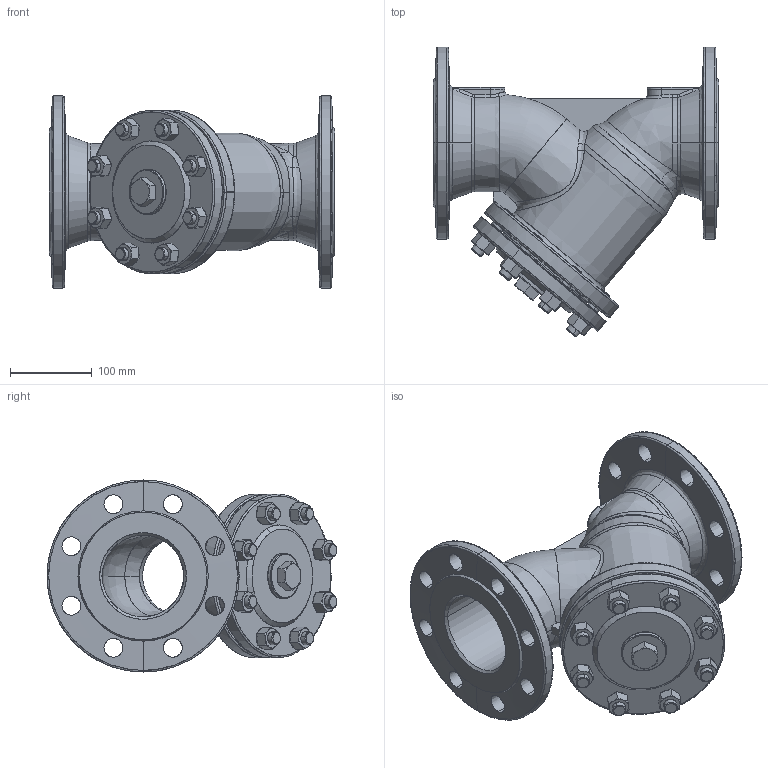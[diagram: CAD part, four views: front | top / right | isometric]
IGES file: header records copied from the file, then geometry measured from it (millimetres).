
Start section: SolidWorks IGES file using analytic representation for surfaces
Global section: file name: E:\SOLID WORKS 98\821\821_DN100_PN25.IGS; native system: SolidWorks 2010; preprocessor: SolidWorks 2010; author: alisowsk; date: 100113.081146; units: millimetre
Bounding box: 350 x 354.73 x 235 mm (x, y, z)
Surface area: 643874.7 mm2 (no closed solid volume)
Topology: 0 solids, 0 shells, 813 faces, 12737 edges, 12737 vertices
Faces by surface type: revolution 478, bspline 335
